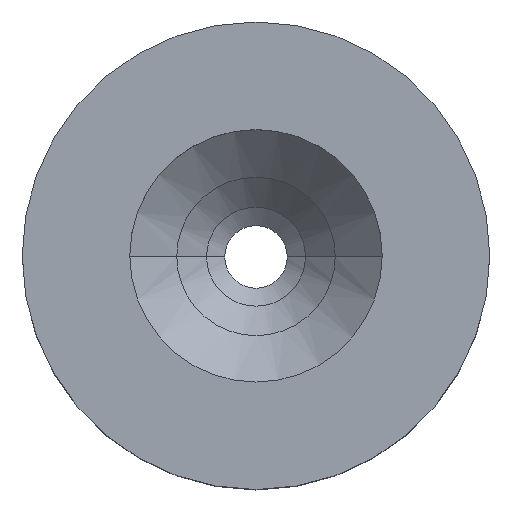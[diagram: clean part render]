
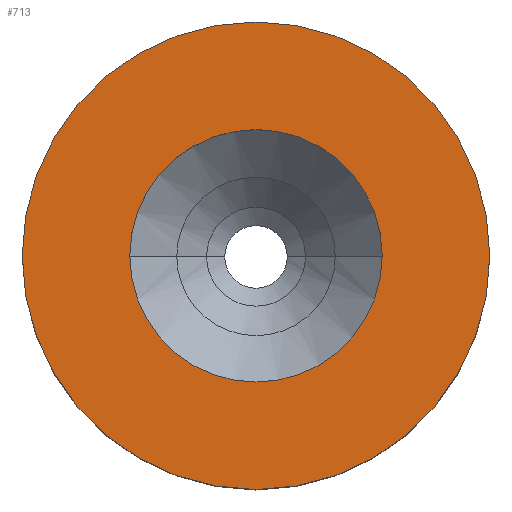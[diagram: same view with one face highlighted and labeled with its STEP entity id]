
A CAD part, top view. The second image highlights one B-rep face of the part: STEP entity #713.
In plain terms, the highlighted planar face has unit normal (0, 0, 1).
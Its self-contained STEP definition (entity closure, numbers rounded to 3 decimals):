
#43 = EDGE_LOOP ( 'NONE', ( #868, #806 ) ) ;
#79 = DIRECTION ( 'NONE',  ( 0., 0., 1. ) ) ;
#110 = DIRECTION ( 'NONE',  ( 0., 0., 1. ) ) ;
#113 = PLANE ( 'NONE',  #159 ) ;
#152 = DIRECTION ( 'NONE',  ( -1., 0., 0. ) ) ;
#155 = CARTESIAN_POINT ( 'NONE',  ( 0., 0., 0. ) ) ;
#159 = AXIS2_PLACEMENT_3D ( 'NONE', #452, #397, #152 ) ;
#185 = VERTEX_POINT ( 'NONE', #544 ) ;
#199 = VERTEX_POINT ( 'NONE', #314 ) ;
#265 = CIRCLE ( 'NONE', #348, 5. ) ;
#282 = DIRECTION ( 'NONE',  ( 1., 0., 0. ) ) ;
#307 = VERTEX_POINT ( 'NONE', #402 ) ;
#309 = CARTESIAN_POINT ( 'NONE',  ( 0., 0., 0. ) ) ;
#314 = CARTESIAN_POINT ( 'NONE',  ( 2.7, 0., 0. ) ) ;
#336 = EDGE_LOOP ( 'NONE', ( #769, #956 ) ) ;
#348 = AXIS2_PLACEMENT_3D ( 'NONE', #603, #79, #910 ) ;
#367 = AXIS2_PLACEMENT_3D ( 'NONE', #929, #110, #811 ) ;
#397 = DIRECTION ( 'NONE',  ( 0., 0., -1. ) ) ;
#402 = CARTESIAN_POINT ( 'NONE',  ( -2.7, 0., 0. ) ) ;
#422 = AXIS2_PLACEMENT_3D ( 'NONE', #155, #604, #895 ) ;
#452 = CARTESIAN_POINT ( 'NONE',  ( 0., 0., 0. ) ) ;
#492 = CIRCLE ( 'NONE', #367, 2.7 ) ;
#521 = DIRECTION ( 'NONE',  ( 0., 0., 1. ) ) ;
#542 = CARTESIAN_POINT ( 'NONE',  ( 5., 0., 0. ) ) ;
#544 = CARTESIAN_POINT ( 'NONE',  ( -5., 0., 0. ) ) ;
#553 = CIRCLE ( 'NONE', #754, 5. ) ;
#559 = EDGE_CURVE ( 'NONE', #199, #307, #492, .T. ) ;
#564 = EDGE_CURVE ( 'NONE', #307, #199, #684, .T. ) ;
#577 = FACE_BOUND ( 'NONE', #43, .T. ) ;
#603 = CARTESIAN_POINT ( 'NONE',  ( 0., 0., 0. ) ) ;
#604 = DIRECTION ( 'NONE',  ( 0., 0., 1. ) ) ;
#637 = VERTEX_POINT ( 'NONE', #542 ) ;
#684 = CIRCLE ( 'NONE', #422, 2.7 ) ;
#713 = ADVANCED_FACE ( 'NONE', ( #577, #766 ), #113, .F. ) ;
#754 = AXIS2_PLACEMENT_3D ( 'NONE', #309, #521, #282 ) ;
#766 = FACE_OUTER_BOUND ( 'NONE', #336, .T. ) ;
#769 = ORIENTED_EDGE ( 'NONE', *, *, #876, .T. ) ;
#782 = EDGE_CURVE ( 'NONE', #185, #637, #265, .T. ) ;
#806 = ORIENTED_EDGE ( 'NONE', *, *, #564, .F. ) ;
#811 = DIRECTION ( 'NONE',  ( 1., 0., 0. ) ) ;
#868 = ORIENTED_EDGE ( 'NONE', *, *, #559, .F. ) ;
#876 = EDGE_CURVE ( 'NONE', #637, #185, #553, .T. ) ;
#895 = DIRECTION ( 'NONE',  ( 1., 0., 0. ) ) ;
#910 = DIRECTION ( 'NONE',  ( 1., 0., 0. ) ) ;
#929 = CARTESIAN_POINT ( 'NONE',  ( 0., 0., 0. ) ) ;
#956 = ORIENTED_EDGE ( 'NONE', *, *, #782, .T. ) ;
